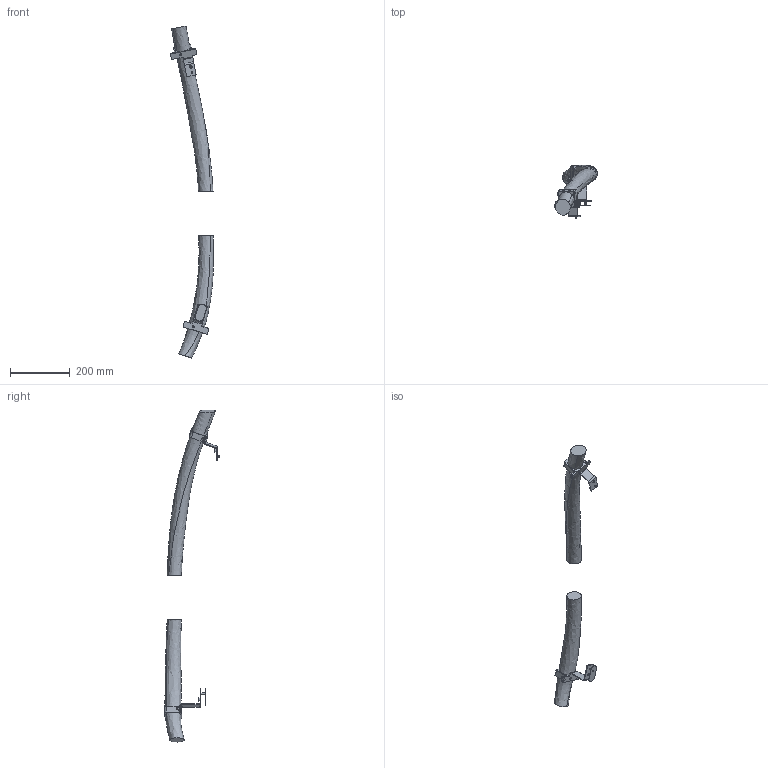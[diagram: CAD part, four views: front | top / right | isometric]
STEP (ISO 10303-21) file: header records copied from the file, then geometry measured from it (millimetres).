
FILE_DESCRIPTION (( 'STEP AP214' ), '1' );
FILE_NAME ('IRB6700-SW6_145-320_IRC5_rev02_LINK02m_CABLE.STEP', '2021-07-08T09:24:50', ( '' ), ( '' ), 'SwSTEP 2.0', 'SolidWorks 2020', '' );
FILE_SCHEMA (( 'AUTOMOTIVE_DESIGN' ));
Length unit declared in the file: millimetre
Products named in the file (1): IRB6700-SW6_145-320_IRC5_rev02_LINK02m_CABLE
Bounding box: 143.89 x 182 x 1110.69 mm (x, y, z)
Volume: 2024365.4 mm3; surface area: 203002 mm2
Topology: 2 solids, 2 shells, 284 faces, 703 edges, 446 vertices
Faces by surface type: plane 151, cylinder 106, cone 16, bspline 11
Entity records: 13342 total; most frequent: CARTESIAN_POINT 6453, ORIENTED_EDGE 1406, DIRECTION 1395, EDGE_CURVE 703, AXIS2_PLACEMENT_3D 514, VERTEX_POINT 446, VECTOR 367, LINE 367
